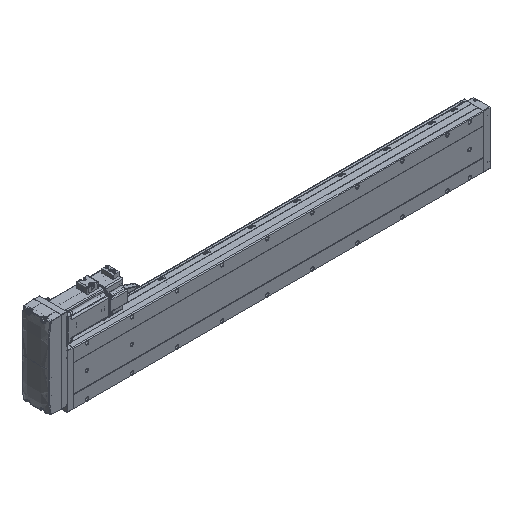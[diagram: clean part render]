
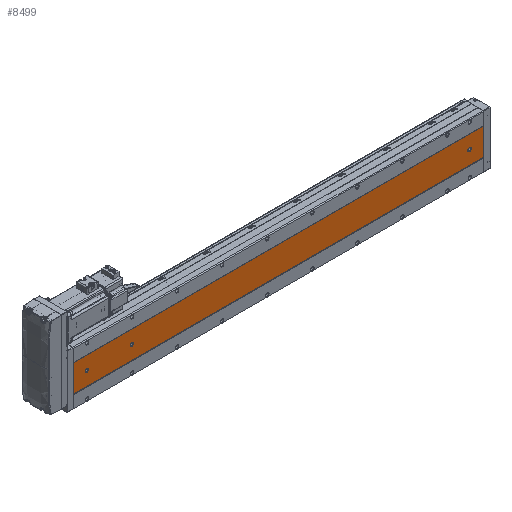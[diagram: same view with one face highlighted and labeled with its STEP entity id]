
A CAD part, isometric view. The second image highlights one B-rep face of the part: STEP entity #8499.
In plain terms, the highlighted planar face has unit normal (0, -1, 0).
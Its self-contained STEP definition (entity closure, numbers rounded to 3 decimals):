
#508 = ORIENTED_EDGE ( 'NONE', *, *, #36524, .T. ) ;
#671 = ORIENTED_EDGE ( 'NONE', *, *, #50587, .F. ) ;
#1500 = EDGE_LOOP ( 'NONE', ( #43478, #508 ) ) ;
#2837 = AXIS2_PLACEMENT_3D ( 'NONE', #72856, #56364, #90142 ) ;
#7066 = CARTESIAN_POINT ( 'NONE',  ( -69.892, -52.848, 0. ) ) ;
#8499 = ADVANCED_FACE ( 'NONE', ( #47755, #14729, #60943, #9412 ), #53266, .F. ) ;
#9412 = FACE_OUTER_BOUND ( 'NONE', #67794, .T. ) ;
#10519 = DIRECTION ( 'NONE',  ( 0., 0., -1. ) ) ;
#11187 = CARTESIAN_POINT ( 'NONE',  ( -69.892, -52.848, 911. ) ) ;
#12826 = VECTOR ( 'NONE', #68941, 1000. ) ;
#13303 = DIRECTION ( 'NONE',  ( 0., 1., 0. ) ) ;
#13675 = DIRECTION ( 'NONE',  ( 0., 0., 1. ) ) ;
#14729 = FACE_BOUND ( 'NONE', #1500, .T. ) ;
#14771 = VERTEX_POINT ( 'NONE', #75199 ) ;
#14959 = CARTESIAN_POINT ( 'NONE',  ( -43.392, -52.848, 911. ) ) ;
#16395 = EDGE_CURVE ( 'NONE', #28493, #107161, #74371, .T. ) ;
#17846 = CIRCLE ( 'NONE', #70453, 3.5 ) ;
#20347 = EDGE_CURVE ( 'NONE', #60983, #88667, #73845, .T. ) ;
#20440 = CIRCLE ( 'NONE', #97234, 3.5 ) ;
#21182 = ORIENTED_EDGE ( 'NONE', *, *, #95351, .T. ) ;
#22288 = CARTESIAN_POINT ( 'NONE',  ( -69.892, -52.848, 911. ) ) ;
#23270 = CARTESIAN_POINT ( 'NONE',  ( -39.892, -52.848, 777.5 ) ) ;
#26027 = CARTESIAN_POINT ( 'NONE',  ( -9.892, -52.848, 911. ) ) ;
#26658 = EDGE_CURVE ( 'NONE', #86524, #86598, #37177, .T. ) ;
#26812 = VERTEX_POINT ( 'NONE', #57345 ) ;
#28493 = VERTEX_POINT ( 'NONE', #57092 ) ;
#28727 = LINE ( 'NONE', #86607, #12826 ) ;
#32316 = EDGE_LOOP ( 'NONE', ( #107193, #78537 ) ) ;
#34076 = DIRECTION ( 'NONE',  ( 1., 0., 0. ) ) ;
#34754 = AXIS2_PLACEMENT_3D ( 'NONE', #100135, #108947, #66240 ) ;
#36183 = EDGE_CURVE ( 'NONE', #88667, #60983, #63670, .T. ) ;
#36524 = EDGE_CURVE ( 'NONE', #85788, #71391, #60935, .T. ) ;
#37177 = LINE ( 'NONE', #26027, #45112 ) ;
#37426 = DIRECTION ( 'NONE',  ( 0., 1., 0. ) ) ;
#39093 = VECTOR ( 'NONE', #34076, 1000. ) ;
#39559 = DIRECTION ( 'NONE',  ( 0., 0., -1. ) ) ;
#41168 = CARTESIAN_POINT ( 'NONE',  ( -39.892, -52.848, 30. ) ) ;
#41770 = CIRCLE ( 'NONE', #61550, 3.5 ) ;
#43478 = ORIENTED_EDGE ( 'NONE', *, *, #78559, .T. ) ;
#43689 = DIRECTION ( 'NONE',  ( 0., 1., 0. ) ) ;
#45112 = VECTOR ( 'NONE', #10519, 1000. ) ;
#45947 = DIRECTION ( 'NONE',  ( 1., 0., 0. ) ) ;
#45948 = AXIS2_PLACEMENT_3D ( 'NONE', #70570, #43689, #103026 ) ;
#46032 = LINE ( 'NONE', #62532, #80245 ) ;
#47755 = FACE_BOUND ( 'NONE', #83564, .T. ) ;
#50587 = EDGE_CURVE ( 'NONE', #67535, #86524, #46032, .T. ) ;
#52227 = ORIENTED_EDGE ( 'NONE', *, *, #83837, .T. ) ;
#53266 = PLANE ( 'NONE',  #89890 ) ;
#55145 = ORIENTED_EDGE ( 'NONE', *, *, #68829, .T. ) ;
#55581 = CARTESIAN_POINT ( 'NONE',  ( -9.892, -52.848, 911. ) ) ;
#56364 = DIRECTION ( 'NONE',  ( 0., 1., 0. ) ) ;
#57092 = CARTESIAN_POINT ( 'NONE',  ( -39.892, -52.848, 26.5 ) ) ;
#57345 = CARTESIAN_POINT ( 'NONE',  ( -43.392, -52.848, 32. ) ) ;
#58542 = DIRECTION ( 'NONE',  ( 0., 0., 1. ) ) ;
#58588 = EDGE_CURVE ( 'NONE', #67535, #75497, #95385, .T. ) ;
#60443 = CARTESIAN_POINT ( 'NONE',  ( -39.892, -52.848, 784.5 ) ) ;
#60935 = CIRCLE ( 'NONE', #45948, 3.5 ) ;
#60943 = FACE_BOUND ( 'NONE', #32316, .T. ) ;
#60983 = VERTEX_POINT ( 'NONE', #69607 ) ;
#61180 = ORIENTED_EDGE ( 'NONE', *, *, #78460, .T. ) ;
#61550 = AXIS2_PLACEMENT_3D ( 'NONE', #79253, #61598, #87383 ) ;
#61598 = DIRECTION ( 'NONE',  ( 0., 1., 0. ) ) ;
#62492 = DIRECTION ( 'NONE',  ( 0., 0., 1. ) ) ;
#62532 = CARTESIAN_POINT ( 'NONE',  ( -69.892, -52.848, 911. ) ) ;
#63670 = CIRCLE ( 'NONE', #2837, 3.5 ) ;
#64928 = VECTOR ( 'NONE', #90440, 1000. ) ;
#66240 = DIRECTION ( 'NONE',  ( 0., 0., 1. ) ) ;
#67535 = VERTEX_POINT ( 'NONE', #97762 ) ;
#67794 = EDGE_LOOP ( 'NONE', ( #55145, #70988, #671, #85280 ) ) ;
#68829 = EDGE_CURVE ( 'NONE', #75497, #86598, #101054, .T. ) ;
#68941 = DIRECTION ( 'NONE',  ( 0., 0., -1. ) ) ;
#69607 = CARTESIAN_POINT ( 'NONE',  ( -39.892, -52.848, 877.5 ) ) ;
#70209 = LINE ( 'NONE', #14959, #64928 ) ;
#70453 = AXIS2_PLACEMENT_3D ( 'NONE', #41168, #108921, #58542 ) ;
#70570 = CARTESIAN_POINT ( 'NONE',  ( -39.892, -52.848, 781. ) ) ;
#70988 = ORIENTED_EDGE ( 'NONE', *, *, #26658, .F. ) ;
#71391 = VERTEX_POINT ( 'NONE', #23270 ) ;
#72856 = CARTESIAN_POINT ( 'NONE',  ( -39.892, -52.848, 881. ) ) ;
#73845 = CIRCLE ( 'NONE', #85853, 3.5 ) ;
#74371 = CIRCLE ( 'NONE', #34754, 3.5 ) ;
#75199 = CARTESIAN_POINT ( 'NONE',  ( -36.392, -52.848, 32. ) ) ;
#75497 = VERTEX_POINT ( 'NONE', #7066 ) ;
#76892 = VECTOR ( 'NONE', #39559, 1000. ) ;
#78460 = EDGE_CURVE ( 'NONE', #93738, #28493, #17846, .T. ) ;
#78537 = ORIENTED_EDGE ( 'NONE', *, *, #36183, .T. ) ;
#78559 = EDGE_CURVE ( 'NONE', #71391, #85788, #20440, .T. ) ;
#78690 = CARTESIAN_POINT ( 'NONE',  ( -39.892, -52.848, 781. ) ) ;
#78943 = DIRECTION ( 'NONE',  ( 0., 0., 1. ) ) ;
#79253 = CARTESIAN_POINT ( 'NONE',  ( -39.892, -52.848, 32. ) ) ;
#80006 = EDGE_CURVE ( 'NONE', #107161, #26812, #70209, .T. ) ;
#80245 = VECTOR ( 'NONE', #45947, 1000. ) ;
#81266 = ORIENTED_EDGE ( 'NONE', *, *, #80006, .T. ) ;
#81973 = CARTESIAN_POINT ( 'NONE',  ( -9.892, -52.848, 0. ) ) ;
#83564 = EDGE_LOOP ( 'NONE', ( #81266, #21182, #52227, #61180, #86856 ) ) ;
#83837 = EDGE_CURVE ( 'NONE', #14771, #93738, #28727, .T. ) ;
#85280 = ORIENTED_EDGE ( 'NONE', *, *, #58588, .T. ) ;
#85788 = VERTEX_POINT ( 'NONE', #60443 ) ;
#85853 = AXIS2_PLACEMENT_3D ( 'NONE', #106888, #13303, #13675 ) ;
#86524 = VERTEX_POINT ( 'NONE', #55581 ) ;
#86598 = VERTEX_POINT ( 'NONE', #81973 ) ;
#86607 = CARTESIAN_POINT ( 'NONE',  ( -36.392, -52.848, 911. ) ) ;
#86856 = ORIENTED_EDGE ( 'NONE', *, *, #16395, .T. ) ;
#87383 = DIRECTION ( 'NONE',  ( 0., 0., 1. ) ) ;
#87795 = DIRECTION ( 'NONE',  ( 0., 1., 0. ) ) ;
#88667 = VERTEX_POINT ( 'NONE', #104618 ) ;
#89890 = AXIS2_PLACEMENT_3D ( 'NONE', #11187, #87795, #78943 ) ;
#90142 = DIRECTION ( 'NONE',  ( 0., 0., 1. ) ) ;
#90440 = DIRECTION ( 'NONE',  ( 0., 0., 1. ) ) ;
#93724 = CARTESIAN_POINT ( 'NONE',  ( -69.892, -52.848, 0. ) ) ;
#93738 = VERTEX_POINT ( 'NONE', #102354 ) ;
#94297 = CARTESIAN_POINT ( 'NONE',  ( -43.392, -52.848, 30. ) ) ;
#95351 = EDGE_CURVE ( 'NONE', #26812, #14771, #41770, .T. ) ;
#95385 = LINE ( 'NONE', #22288, #76892 ) ;
#97234 = AXIS2_PLACEMENT_3D ( 'NONE', #78690, #37426, #62492 ) ;
#97762 = CARTESIAN_POINT ( 'NONE',  ( -69.892, -52.848, 911. ) ) ;
#100135 = CARTESIAN_POINT ( 'NONE',  ( -39.892, -52.848, 30. ) ) ;
#101054 = LINE ( 'NONE', #93724, #39093 ) ;
#102354 = CARTESIAN_POINT ( 'NONE',  ( -36.392, -52.848, 30. ) ) ;
#103026 = DIRECTION ( 'NONE',  ( 0., 0., 1. ) ) ;
#104618 = CARTESIAN_POINT ( 'NONE',  ( -39.892, -52.848, 884.5 ) ) ;
#106888 = CARTESIAN_POINT ( 'NONE',  ( -39.892, -52.848, 881. ) ) ;
#107161 = VERTEX_POINT ( 'NONE', #94297 ) ;
#107193 = ORIENTED_EDGE ( 'NONE', *, *, #20347, .T. ) ;
#108921 = DIRECTION ( 'NONE',  ( 0., 1., 0. ) ) ;
#108947 = DIRECTION ( 'NONE',  ( 0., 1., 0. ) ) ;
